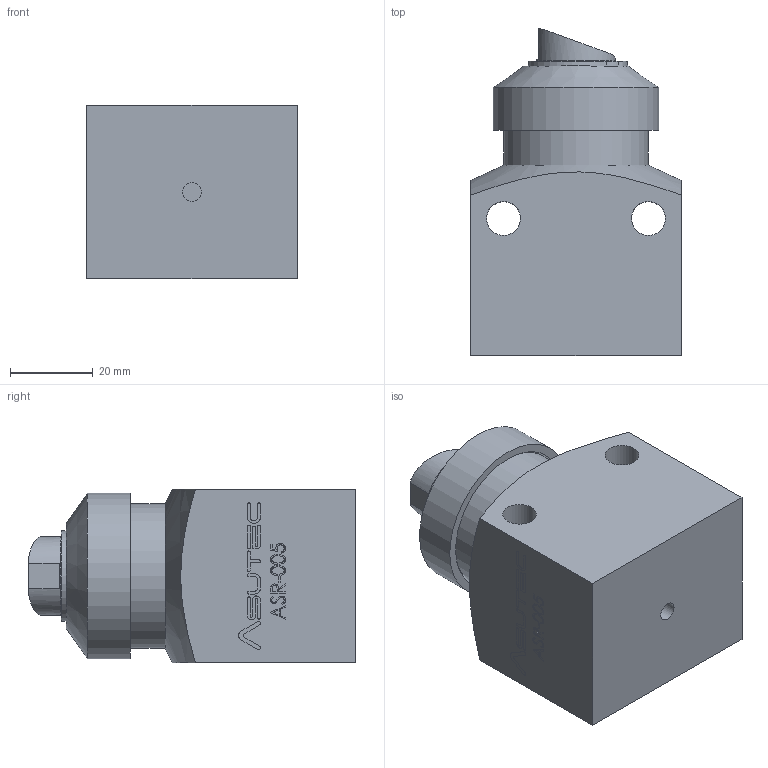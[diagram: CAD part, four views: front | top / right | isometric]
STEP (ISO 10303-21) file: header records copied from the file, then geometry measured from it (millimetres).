
FILE_DESCRIPTION (( 'STEP AP203' ), '1' );
FILE_NAME ('ASR-005.STEP', '2017-01-19T09:07:07', ( '' ), ( '' ), 'SwSTEP 2.0', 'SolidWorks 2015', '' );
FILE_SCHEMA (( 'CONFIG_CONTROL_DESIGN' ));
Length unit declared in the file: metre
Products named in the file (1): ASR-005
Bounding box: 51 x 79.1 x 42 mm (x, y, z)
Volume: 109522.4 mm3; surface area: 22497.7 mm2
Topology: 1 solids, 2 shells, 342 faces, 922 edges, 612 vertices
Faces by surface type: plane 149, cylinder 140, bspline 46, cone 6, torus 1
Full cylindrical faces by diameter (mm): 2 x2, 4 x1, 4.5 x2, 7 x1, 8 x1, 8.2 x2, 18 x1, 19 x1, 23 x1, 23.5 x1, 35 x1, 36 x1, 40 x1
Entity records: 13608 total; most frequent: CARTESIAN_POINT 5106, ORIENTED_EDGE 1784, DIRECTION 1677, EDGE_CURVE 892, VERTEX_POINT 605, AXIS2_PLACEMENT_3D 588, LINE 501, VECTOR 501
